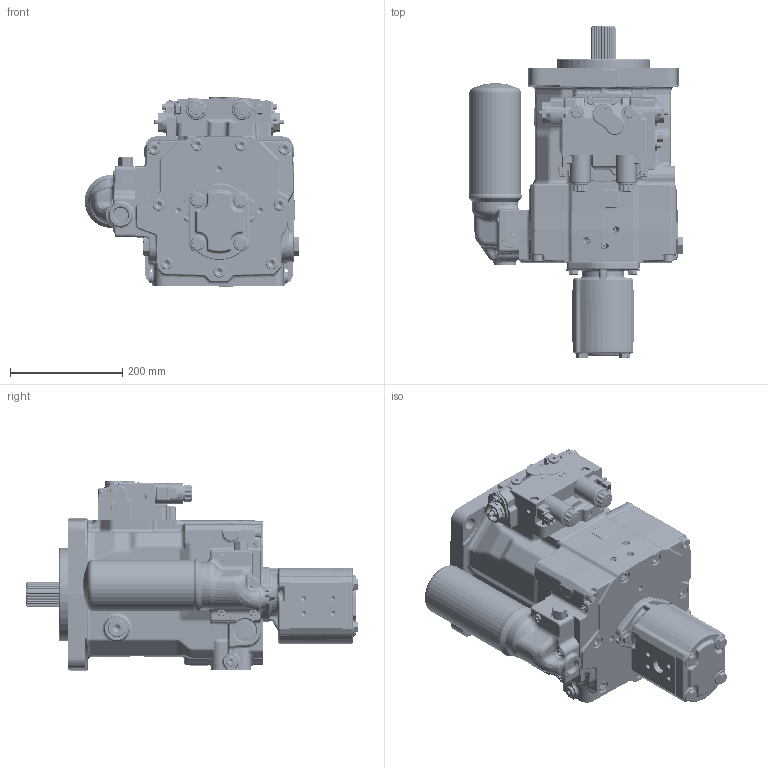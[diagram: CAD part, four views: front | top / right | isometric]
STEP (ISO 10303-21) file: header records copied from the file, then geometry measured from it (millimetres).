
FILE_DESCRIPTION(/* description */ (''),/* implementation_level */ '2;1');
FILE_NAME(/* name */ '1850405m355.stp',/* time_stamp */ '2012-03-30T13:13:38+02:00',/* author */ (''),/* organization */ (''),/* preprocessor_version */ 'ST-DEVELOPER v11',/* originating_system */ 'SIEMENS PLM Software NX 7.5',/* authorisation */ '');
FILE_SCHEMA (('AUTOMOTIVE_DESIGN { 1 0 10303 214 1 1 1 1 }'));
Length unit declared in the file: millimetre
Products named in the file (1): 1850405m355
Bounding box: 381.6 x 590.44 x 336.5 mm (x, y, z)
Volume: 26166054.4 mm3; surface area: 1227342.7 mm2
Topology: 10 solids, 20 shells, 4841 faces, 11687 edges, 7005 vertices
Faces by surface type: plane 1475, cylinder 1366, bspline 880, cone 379, torus 316, extrusion 177, revolution 153, sphere 95
Full cylindrical faces by diameter (mm): 3 x2, 4 x2, 5 x3, 6 x6, 6.4 x3, 6.8 x2, 7.5 x1, 8 x10, 8.5 x8, 8.782 x4, 9.9 x6, 10 x5, 10.2 x4, 10.5 x2, 10.579 x10, 10.7 x2, 11 x2, 11.7 x4, 12 x15, 12.25 x7, 12.5 x4, 12.8 x4, 13 x4, 13.5 x4, 14 x12, 14.376 x8, 15 x2, 15.5 x2, 17 x2, 18 x6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
Entity records: 157963 total; most frequent: CARTESIAN_POINT 53266, ORIENTED_EDGE 21786, DIRECTION 21166, EDGE_CURVE 10893, AXIS2_PLACEMENT_3D 8492, VERTEX_POINT 6804, EDGE_LOOP 5569, ADVANCED_FACE 4841
